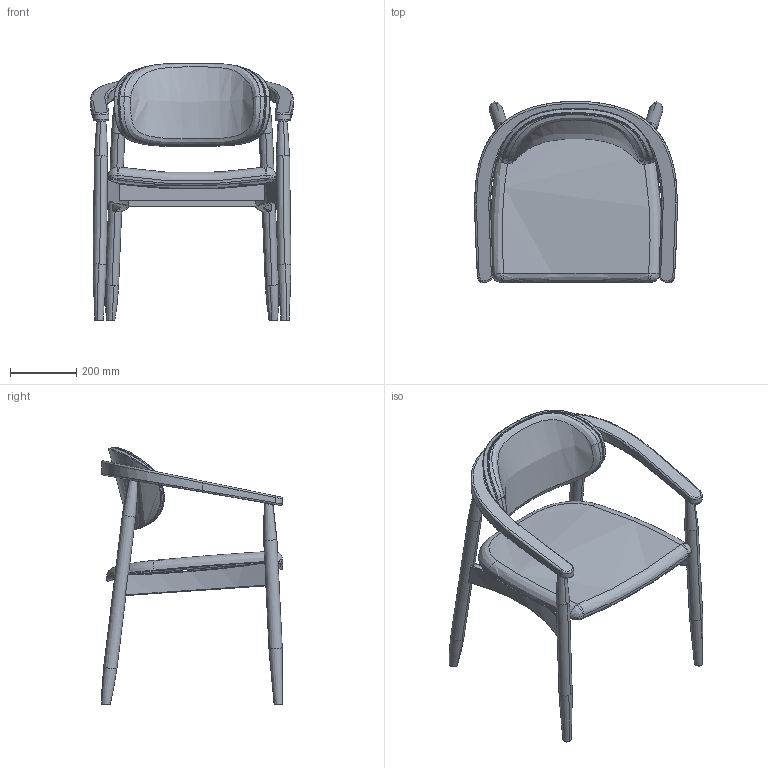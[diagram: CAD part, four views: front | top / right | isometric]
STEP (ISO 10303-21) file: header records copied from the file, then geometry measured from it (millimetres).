
FILE_DESCRIPTION(/* description */ (''),/* implementation_level */ '2;1');
FILE_NAME(/* name */ 'KIOGK2~O',/* time_stamp */ '2020-06-23T09:09:24+09:00',/* author */ (''),/* organization */ (''),/* preprocessor_version */ 'ST-DEVELOPER v15',/* originating_system */ '',/* authorisation */ '');
FILE_SCHEMA (('AUTOMOTIVE_DESIGN'));
Length unit declared in the file: millimetre
Products named in the file (3): Document; ﾌﾞﾛｯｸ 59; ﾌﾞﾛｯｸ 58
Assembly tree (2 placements, depth 2):
  Document
    ﾌﾞﾛｯｸ 59
    ﾌﾞﾛｯｸ 58
Bounding box: 610 x 545 x 774.94 mm (x, y, z)
Volume: 2413347.4 mm3; surface area: 1836298.3 mm2
Topology: 4 solids, 15 shells, 169 faces, 460 edges, 299 vertices
Faces by surface type: bspline 149, plane 20
Entity records: 35293 total; most frequent: CARTESIAN_POINT 32620, ORIENTED_EDGE 858, EDGE_CURVE 459, B_SPLINE_CURVE_WITH_KNOTS 331, VERTEX_POINT 299, ADVANCED_FACE 169, FACE_OUTER_BOUND 169, EDGE_LOOP 169
